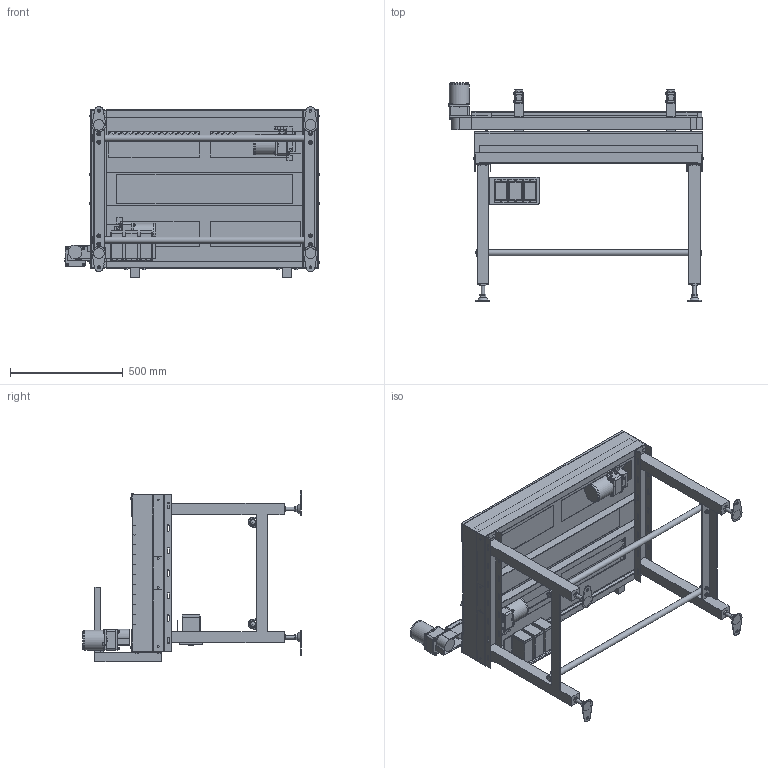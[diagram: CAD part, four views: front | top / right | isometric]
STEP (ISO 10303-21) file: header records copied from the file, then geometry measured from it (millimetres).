
FILE_DESCRIPTION (( 'STEP AP214' ), '1' );
FILE_NAME ('SGA-500-R-D.STEP', '2022-04-12T00:34:41', ( '' ), ( '' ), 'SwSTEP 2.0', 'SolidWorks 2017', '' );
FILE_SCHEMA (( 'AUTOMOTIVE_DESIGN' ));
Length unit declared in the file: millimetre
Products named in the file (18): SWD-SGA-S-ﾃｰｸｱｯﾌﾟ; SK-34-WH; SWD-SGA-S-郯讜擾500暆; SWD-AJ-020(75mm); SWD-SGA-S-脚_500幅; VFD001L21A_WEB図; SWD-SGA-S-徊霓娃詭x帩; SWD-SGA-衛動葀杺_990; SWD-UBM540-403-E2+5GN3-18K_t4; SWD-SGA-S-端囂啞枌袡紕; SWD-SGA-S-原動カバー; SWD-U-010 Assy_固定板t6; SWD-SGA-S-娃敖腾把_500暆; SWD-SGA-S-原動部; SWD-UBM540-403-E2+5GN3-18K; SWD-SGA-S-ｻｲﾄﾞﾍﾞﾔ_500出口側飛出し; SGA-500-R-D; SWD-SGA-S-端囂啞
Assembly tree (30 placements, depth 3):
  SGA-500-R-D
    SWD-SGA-S-娃敖腾把_500暆
    SWD-SGA-S-郯讜擾500暆
    SWD-SGA-S-脚_500幅  x2
    SWD-AJ-020(75mm)  x4
    SWD-U-010 Assy_固定板t6  x4
    SWD-SGA-衛動葀杺_990  x2
    SWD-SGA-S-原動部  x2
      SWD-UBM540-403-E2+5GN3-18K_t4
      SWD-SGA-S-原動カバー
      SWD-SGA-S-ﾃｰｸｱｯﾌﾟ
    SWD-SGA-S-端囂啞
      SWD-SGA-S-端囂啞枌袡紕
      VFD001L21A_WEB図  x3
    SWD-SGA-S-徊霓娃詭x帩  x2
    SK-34-WH  x2
    SWD-SGA-S-ｻｲﾄﾞﾍﾞﾔ_500出口側飛出し
    SWD-UBM540-403-E2+5GN3-18K
Bounding box: 1134.13 x 969.4 x 760 mm (x, y, z)
Volume: 29313421.2 mm3; surface area: 6791125.6 mm2
Topology: 84 solids, 85 shells, 2788 faces, 6891 edges, 4443 vertices
Faces by surface type: plane 1916, cylinder 580, cone 167, bspline 64, torus 38, sphere 23
Full cylindrical faces by diameter (mm): 2 x3, 4.5 x6, 5 x14, 5.5 x3, 6 x34, 6.5 x24, 6.6 x12, 7 x8, 8 x18, 8.49 x3, 9 x8, 10 x12, 10.5 x1, 11.5 x2, 12 x3, 12.2 x2, 12.5 x12, 13 x4, 16 x10, 17 x8, 20 x2, 22 x1, 27.2 x2, 28 x4, 36 x3, 40 x4, 50 x2, 83 x3, 84 x3, 86.3 x3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
Entity records: 60526 total; most frequent: CARTESIAN_POINT 10969, ORIENTED_EDGE 8560, DIRECTION 8476, EDGE_CURVE 4280, LINE 3238, VECTOR 3238, VERTEX_POINT 2880, AXIS2_PLACEMENT_3D 2619
